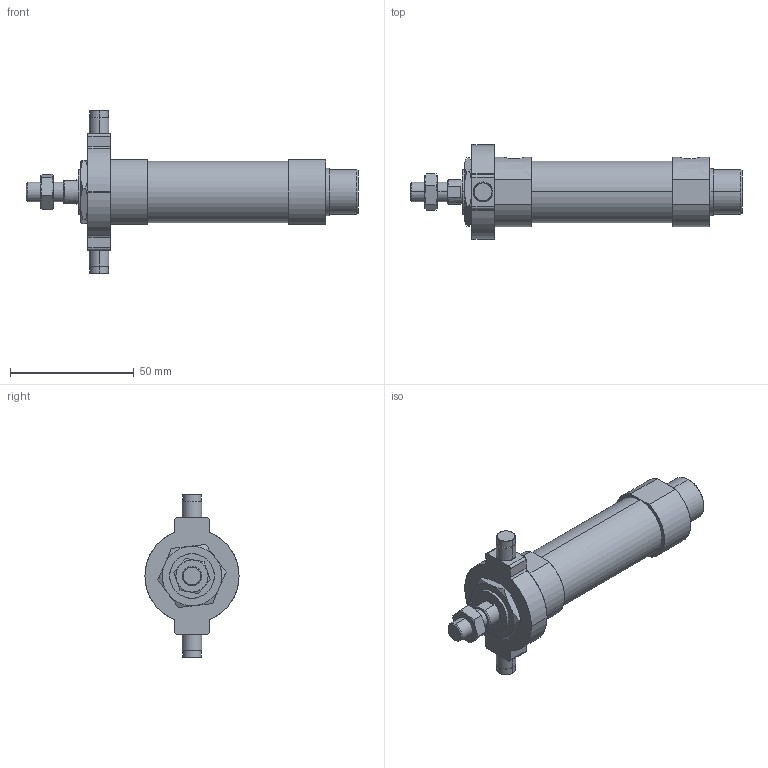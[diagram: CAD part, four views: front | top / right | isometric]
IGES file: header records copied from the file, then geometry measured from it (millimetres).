
Start section: SolidWorks IGES file using analytic representation for surfaces
Global section: file name: C:\Users\Toshiba\Desktop\J#2-20-25-T.IGS; native system: SolidWorks 2014; preprocessor: SolidWorks 2014; author: Toshiba; date: 160308.145602; units: millimetre
Bounding box: 134 x 38 x 66 mm (x, y, z)
Surface area: 16960.2 mm2 (no closed solid volume)
Topology: 0 solids, 0 shells, 131 faces, 2124 edges, 2124 vertices
Faces by surface type: bspline 70, revolution 61
